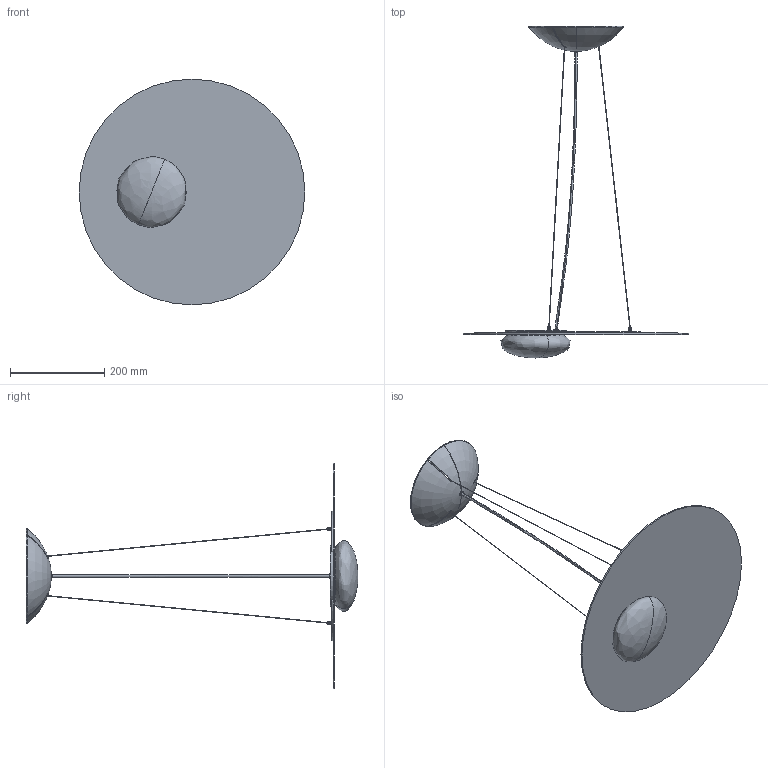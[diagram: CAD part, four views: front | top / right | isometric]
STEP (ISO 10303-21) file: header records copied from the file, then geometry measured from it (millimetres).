
FILE_DESCRIPTION (( 'STEP AP203' ), '1' );
FILE_NAME ('KWIC_Suspension_480.STEP', '2019-07-25T13:33:01', ( '' ), ( '' ), 'SwSTEP 2.0', 'SolidWorks 2019', '' );
FILE_SCHEMA (( 'CONFIG_CONTROL_DESIGN' ));
Length unit declared in the file: millimetre
Products named in the file (15): sicura_M4.STEP; WSCM2F0004-0100-00.STEP; WSAXO069VEAA020000.STEP; KWIC_Suspension_480.STEP; KWIC_SuspensionInterface.STEP; nipples_STEAB_5475-3_5475-3-07-0-11.STEP; WSASS-000000012-45_KWIC.STEP; KWIC_Suspension_480; Part6^KWIC_Suspension.STEP; KWIC_DISC_Sospensione 480.STEP; WSCM2D0003-0128-01.STEP; Part5^KWIC_Suspension.STEP; KWIC_BackDiffuserSuspension.STEP; WSCM1E0001-0145-00.STEP; KWIC_disc_480.STEP
Assembly tree (18 placements, depth 5):
  KWIC_Suspension_480
    KWIC_Suspension_480.STEP
      KWIC_DISC_Sospensione 480.STEP
        KWIC_disc_480.STEP
        WSAXO069VEAA020000.STEP
        KWIC_BackDiffuserSuspension.STEP
      WSASS-000000012-45_KWIC.STEP
        WSCM1E0001-0145-00.STEP
          WSCM2F0004-0100-00.STEP
        WSCM2D0003-0128-01.STEP
      KWIC_SuspensionInterface.STEP
      sicura_M4.STEP  x3
      Part5^KWIC_Suspension.STEP  x3
      Part6^KWIC_Suspension.STEP
      nipples_STEAB_5475-3_5475-3-07-0-11.STEP
Bounding box: 480 x 706 x 480 mm (x, y, z)
Volume: 937832.1 mm3; surface area: 707472.6 mm2
Topology: 14 solids, 14 shells, 639 faces, 1719 edges, 1118 vertices
Faces by surface type: cylinder 306, plane 239, cone 46, torus 40, bspline 8
Entity records: 16908 total; most frequent: CARTESIAN_POINT 3979, DIRECTION 2513, ORIENTED_EDGE 2274, EDGE_CURVE 1137, AXIS2_PLACEMENT_3D 1010, VERTEX_POINT 738, CIRCLE 568, EDGE_LOOP 543
